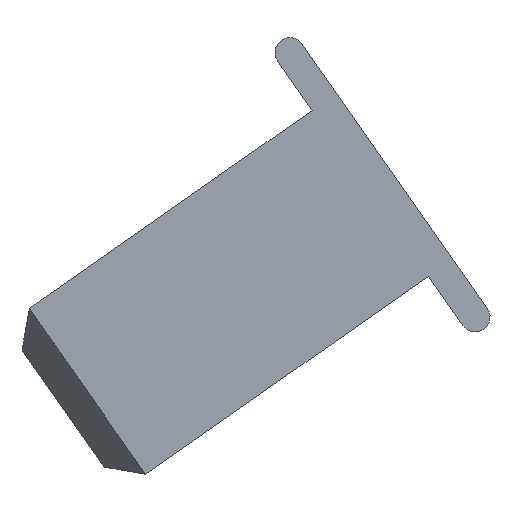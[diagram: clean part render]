
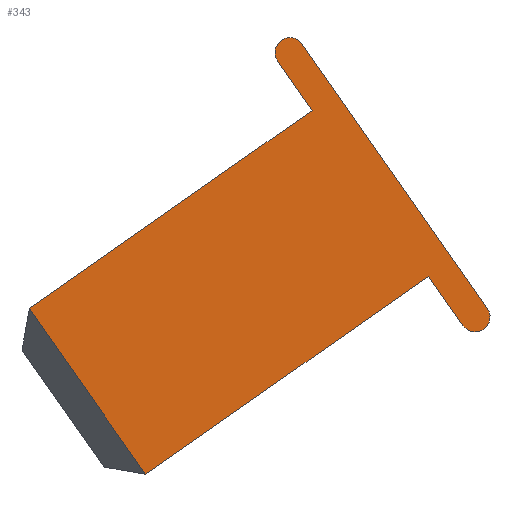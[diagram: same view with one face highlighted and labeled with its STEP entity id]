
A CAD part, front view. The second image highlights one B-rep face of the part: STEP entity #343.
In plain terms, the highlighted planar face has unit normal (0, -1, 0).
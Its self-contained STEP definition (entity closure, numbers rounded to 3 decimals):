
#1 = CARTESIAN_POINT ( 'NONE',  ( -20.712, -3.45, -12.878 ) ) ;
#13 = ORIENTED_EDGE ( 'NONE', *, *, #509, .F. ) ;
#14 = EDGE_CURVE ( 'NONE', #15, #106, #303, .T. ) ;
#15 = VERTEX_POINT ( 'NONE', #177 ) ;
#19 = VERTEX_POINT ( 'NONE', #503 ) ;
#20 = DIRECTION ( 'NONE',  ( 0., 0., 1. ) ) ;
#22 = DIRECTION ( 'NONE',  ( 0., -1., 0. ) ) ;
#26 = CARTESIAN_POINT ( 'NONE',  ( -14.33, -3.45, -12.926 ) ) ;
#28 = DIRECTION ( 'NONE',  ( 0., 0., 1. ) ) ;
#29 = EDGE_CURVE ( 'NONE', #130, #256, #310, .T. ) ;
#31 = CARTESIAN_POINT ( 'NONE',  ( -14.281, -3.45, -12.647 ) ) ;
#44 = EDGE_LOOP ( 'NONE', ( #13, #507, #52, #492, #92, #450, #175, #462, #336, #341, #152 ) ) ;
#52 = ORIENTED_EDGE ( 'NONE', *, *, #331, .T. ) ;
#55 = AXIS2_PLACEMENT_3D ( 'NONE', #384, #393, #20 ) ;
#66 = CARTESIAN_POINT ( 'NONE',  ( -14.445, -3.45, -12.762 ) ) ;
#74 = CIRCLE ( 'NONE', #442, 0.2 ) ;
#75 = AXIS2_PLACEMENT_3D ( 'NONE', #230, #136, #225 ) ;
#89 = LINE ( 'NONE', #417, #279 ) ;
#92 = ORIENTED_EDGE ( 'NONE', *, *, #139, .F. ) ;
#97 = EDGE_CURVE ( 'NONE', #98, #497, #227, .T. ) ;
#98 = VERTEX_POINT ( 'NONE', #187 ) ;
#99 = FACE_OUTER_BOUND ( 'NONE', #44, .T. ) ;
#106 = VERTEX_POINT ( 'NONE', #154 ) ;
#113 = CIRCLE ( 'NONE', #468, 0.2 ) ;
#119 = DIRECTION ( 'NONE',  ( -0.574, 0., 0.819 ) ) ;
#120 = CARTESIAN_POINT ( 'NONE',  ( -17.026, -3.45, -9.076 ) ) ;
#127 = VERTEX_POINT ( 'NONE', #120 ) ;
#130 = VERTEX_POINT ( 'NONE', #491 ) ;
#134 = VECTOR ( 'NONE', #119, 1000. ) ;
#136 = DIRECTION ( 'NONE',  ( 0., -1., 0. ) ) ;
#139 = EDGE_CURVE ( 'NONE', #19, #446, #89, .T. ) ;
#152 = ORIENTED_EDGE ( 'NONE', *, *, #14, .F. ) ;
#154 = CARTESIAN_POINT ( 'NONE',  ( -18.836, -3.45, -14.86 ) ) ;
#157 = CARTESIAN_POINT ( 'NONE',  ( -19.621, -3.45, -13.739 ) ) ;
#164 = EDGE_CURVE ( 'NONE', #168, #130, #283, .T. ) ;
#168 = VERTEX_POINT ( 'NONE', #489 ) ;
#169 = AXIS2_PLACEMENT_3D ( 'NONE', #300, #186, #504 ) ;
#175 = ORIENTED_EDGE ( 'NONE', *, *, #266, .T. ) ;
#176 = VECTOR ( 'NONE', #232, 1000. ) ;
#177 = CARTESIAN_POINT ( 'NONE',  ( -15.068, -3.45, -12.221 ) ) ;
#186 = DIRECTION ( 'NONE',  ( 0., -1., 0. ) ) ;
#187 = CARTESIAN_POINT ( 'NONE',  ( -14.609, -3.45, -12.877 ) ) ;
#193 = LINE ( 'NONE', #203, #134 ) ;
#203 = CARTESIAN_POINT ( 'NONE',  ( -15.068, -3.45, -12.221 ) ) ;
#212 = AXIS2_PLACEMENT_3D ( 'NONE', #439, #516, #28 ) ;
#222 = PLANE ( 'NONE',  #55 ) ;
#225 = DIRECTION ( 'NONE',  ( 0., 0., 1. ) ) ;
#227 = CIRCLE ( 'NONE', #212, 0.2 ) ;
#230 = CARTESIAN_POINT ( 'NONE',  ( -14.445, -3.45, -12.762 ) ) ;
#232 = DIRECTION ( 'NONE',  ( 0.574, 0., -0.819 ) ) ;
#233 = DIRECTION ( 'NONE',  ( -0.574, 0., 0.819 ) ) ;
#245 = LINE ( 'NONE', #157, #176 ) ;
#256 = VERTEX_POINT ( 'NONE', #369 ) ;
#266 = EDGE_CURVE ( 'NONE', #127, #256, #398, .T. ) ;
#269 = DIRECTION ( 'NONE',  ( 0., 0., 1. ) ) ;
#279 = VECTOR ( 'NONE', #456, 1000. ) ;
#283 = LINE ( 'NONE', #1, #345 ) ;
#292 = EDGE_CURVE ( 'NONE', #407, #446, #74, .T. ) ;
#300 = CARTESIAN_POINT ( 'NONE',  ( -16.912, -3.45, -9.24 ) ) ;
#303 = LINE ( 'NONE', #379, #441 ) ;
#310 = LINE ( 'NONE', #435, #453 ) ;
#311 = CARTESIAN_POINT ( 'NONE',  ( -16.912, -3.45, -9.24 ) ) ;
#322 = DIRECTION ( 'NONE',  ( 0.819, 0., 0.574 ) ) ;
#323 = EDGE_CURVE ( 'NONE', #19, #127, #113, .T. ) ;
#331 = EDGE_CURVE ( 'NONE', #497, #407, #389, .T. ) ;
#336 = ORIENTED_EDGE ( 'NONE', *, *, #164, .F. ) ;
#341 = ORIENTED_EDGE ( 'NONE', *, *, #421, .T. ) ;
#343 = ADVANCED_FACE ( 'NONE', ( #99 ), #222, .F. ) ;
#345 = VECTOR ( 'NONE', #322, 1000. ) ;
#356 = CARTESIAN_POINT ( 'NONE',  ( -14.445, -3.45, -12.962 ) ) ;
#369 = CARTESIAN_POINT ( 'NONE',  ( -17.075, -3.45, -9.354 ) ) ;
#379 = CARTESIAN_POINT ( 'NONE',  ( -15.068, -3.45, -12.221 ) ) ;
#384 = CARTESIAN_POINT ( 'NONE',  ( 0., -3.45, 0. ) ) ;
#389 = CIRCLE ( 'NONE', #75, 0.2 ) ;
#393 = DIRECTION ( 'NONE',  ( 0., 1., 0. ) ) ;
#398 = CIRCLE ( 'NONE', #169, 0.2 ) ;
#407 = VERTEX_POINT ( 'NONE', #26 ) ;
#417 = CARTESIAN_POINT ( 'NONE',  ( -16.862, -3.45, -8.961 ) ) ;
#421 = EDGE_CURVE ( 'NONE', #168, #106, #245, .T. ) ;
#435 = CARTESIAN_POINT ( 'NONE',  ( -16.617, -3.45, -10.01 ) ) ;
#439 = CARTESIAN_POINT ( 'NONE',  ( -14.445, -3.45, -12.762 ) ) ;
#441 = VECTOR ( 'NONE', #465, 1000. ) ;
#442 = AXIS2_PLACEMENT_3D ( 'NONE', #66, #22, #511 ) ;
#446 = VERTEX_POINT ( 'NONE', #31 ) ;
#450 = ORIENTED_EDGE ( 'NONE', *, *, #323, .T. ) ;
#453 = VECTOR ( 'NONE', #233, 1000. ) ;
#456 = DIRECTION ( 'NONE',  ( 0.574, 0., -0.819 ) ) ;
#462 = ORIENTED_EDGE ( 'NONE', *, *, #29, .F. ) ;
#465 = DIRECTION ( 'NONE',  ( -0.819, 0., -0.574 ) ) ;
#468 = AXIS2_PLACEMENT_3D ( 'NONE', #311, #508, #269 ) ;
#489 = CARTESIAN_POINT ( 'NONE',  ( -20.385, -3.45, -12.648 ) ) ;
#491 = CARTESIAN_POINT ( 'NONE',  ( -16.617, -3.45, -10.01 ) ) ;
#492 = ORIENTED_EDGE ( 'NONE', *, *, #292, .T. ) ;
#497 = VERTEX_POINT ( 'NONE', #356 ) ;
#503 = CARTESIAN_POINT ( 'NONE',  ( -16.748, -3.45, -9.125 ) ) ;
#504 = DIRECTION ( 'NONE',  ( 0., 0., 1. ) ) ;
#507 = ORIENTED_EDGE ( 'NONE', *, *, #97, .T. ) ;
#508 = DIRECTION ( 'NONE',  ( 0., -1., 0. ) ) ;
#509 = EDGE_CURVE ( 'NONE', #98, #15, #193, .T. ) ;
#511 = DIRECTION ( 'NONE',  ( 0., 0., 1. ) ) ;
#516 = DIRECTION ( 'NONE',  ( 0., -1., 0. ) ) ;
